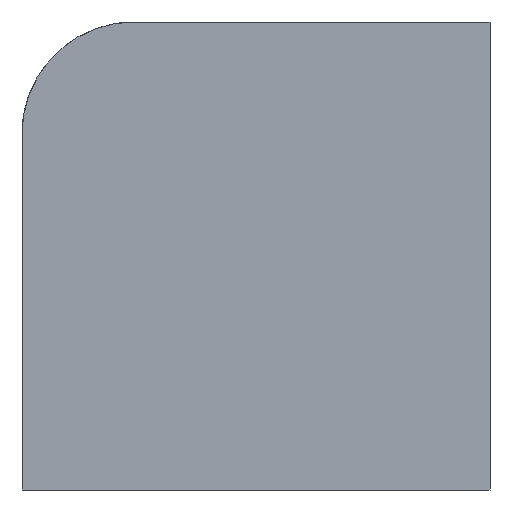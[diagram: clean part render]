
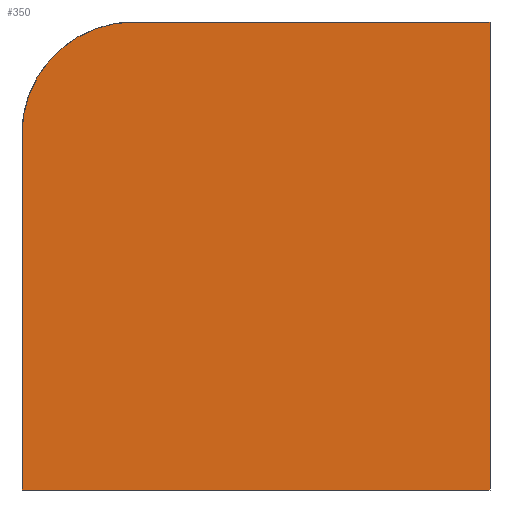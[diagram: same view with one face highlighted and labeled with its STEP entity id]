
A CAD part, front view. The second image highlights one B-rep face of the part: STEP entity #350.
In plain terms, the highlighted planar face has unit normal (0, -1, 0).
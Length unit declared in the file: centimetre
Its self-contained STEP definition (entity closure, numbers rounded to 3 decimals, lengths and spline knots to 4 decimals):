
#1 = AXIS2_PLACEMENT_3D ( 'NONE', #332, #448, #557 ) ;
#7 = CARTESIAN_POINT ( 'NONE',  ( 0., 0., 760.8831 ) ) ;
#37 = DIRECTION ( 'NONE',  ( 1., 0., 0. ) ) ;
#64 = VECTOR ( 'NONE', #179, 100. ) ;
#71 = EDGE_CURVE ( 'NONE', #698, #400, #633, .T. ) ;
#132 = DIRECTION ( 'NONE',  ( 0., 0., 1. ) ) ;
#139 = VERTEX_POINT ( 'NONE', #221 ) ;
#148 = LINE ( 'NONE', #482, #533 ) ;
#160 = CARTESIAN_POINT ( 'NONE',  ( 0., 0., 0. ) ) ;
#167 = EDGE_CURVE ( 'NONE', #230, #518, #669, .T. ) ;
#179 = DIRECTION ( 'NONE',  ( 0., 0., -1. ) ) ;
#186 = VECTOR ( 'NONE', #596, 100. ) ;
#204 = VECTOR ( 'NONE', #37, 100. ) ;
#221 = CARTESIAN_POINT ( 'NONE',  ( 0., 0., 0. ) ) ;
#229 = ORIENTED_EDGE ( 'NONE', *, *, #71, .T. ) ;
#230 = VERTEX_POINT ( 'NONE', #730 ) ;
#248 = DIRECTION ( 'NONE',  ( 0., 1., 0. ) ) ;
#262 = ORIENTED_EDGE ( 'NONE', *, *, #331, .T. ) ;
#284 = ORIENTED_EDGE ( 'NONE', *, *, #710, .T. ) ;
#328 = LINE ( 'NONE', #160, #204 ) ;
#331 = EDGE_CURVE ( 'NONE', #400, #139, #608, .T. ) ;
#332 = CARTESIAN_POINT ( 'NONE',  ( 239.1169, 0., 760.8831 ) ) ;
#334 = ORIENTED_EDGE ( 'NONE', *, *, #167, .F. ) ;
#350 = ADVANCED_FACE ( 'NONE', ( #358 ), #576, .F. ) ;
#358 = FACE_OUTER_BOUND ( 'NONE', #428, .T. ) ;
#400 = VERTEX_POINT ( 'NONE', #7 ) ;
#410 = CARTESIAN_POINT ( 'NONE',  ( 0., 0., 1000. ) ) ;
#428 = EDGE_LOOP ( 'NONE', ( #618, #229, #262, #284, #334 ) ) ;
#448 = DIRECTION ( 'NONE',  ( 0., -1., 0. ) ) ;
#482 = CARTESIAN_POINT ( 'NONE',  ( 0., 0., 1000. ) ) ;
#497 = CARTESIAN_POINT ( 'NONE',  ( 1000., 0., 1000. ) ) ;
#518 = VERTEX_POINT ( 'NONE', #583 ) ;
#527 = EDGE_CURVE ( 'NONE', #698, #230, #148, .T. ) ;
#533 = VECTOR ( 'NONE', #609, 100. ) ;
#557 = DIRECTION ( 'NONE',  ( 0., 0., 1. ) ) ;
#562 = AXIS2_PLACEMENT_3D ( 'NONE', #640, #248, #132 ) ;
#576 = PLANE ( 'NONE',  #562 ) ;
#583 = CARTESIAN_POINT ( 'NONE',  ( 1000., 0., 0. ) ) ;
#596 = DIRECTION ( 'NONE',  ( 0., 0., -1. ) ) ;
#608 = LINE ( 'NONE', #410, #64 ) ;
#609 = DIRECTION ( 'NONE',  ( 1., 0., 0. ) ) ;
#618 = ORIENTED_EDGE ( 'NONE', *, *, #527, .F. ) ;
#633 = CIRCLE ( 'NONE', #1, 239.1169 ) ;
#640 = CARTESIAN_POINT ( 'NONE',  ( 0., 0., 1000. ) ) ;
#669 = LINE ( 'NONE', #497, #186 ) ;
#698 = VERTEX_POINT ( 'NONE', #739 ) ;
#710 = EDGE_CURVE ( 'NONE', #139, #518, #328, .T. ) ;
#730 = CARTESIAN_POINT ( 'NONE',  ( 1000., 0., 1000. ) ) ;
#739 = CARTESIAN_POINT ( 'NONE',  ( 239.1169, 0., 1000. ) ) ;
